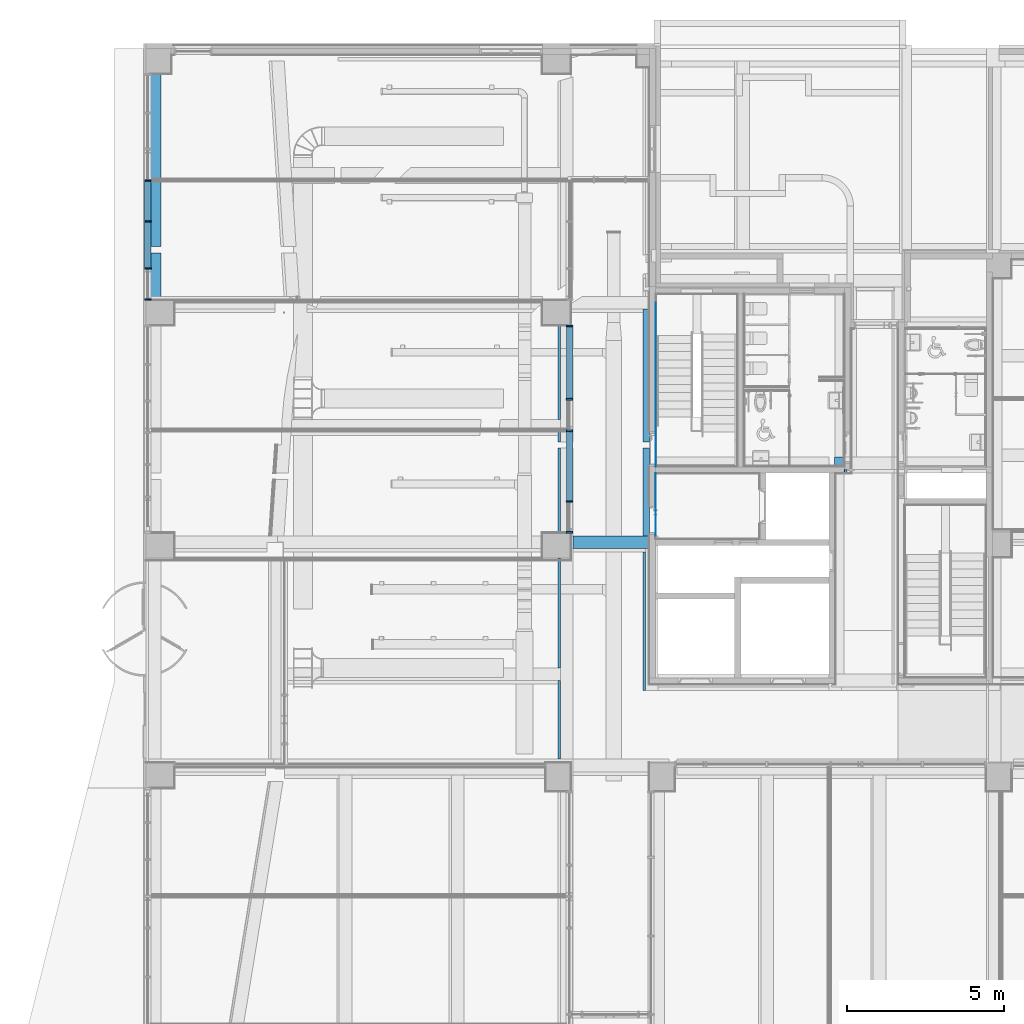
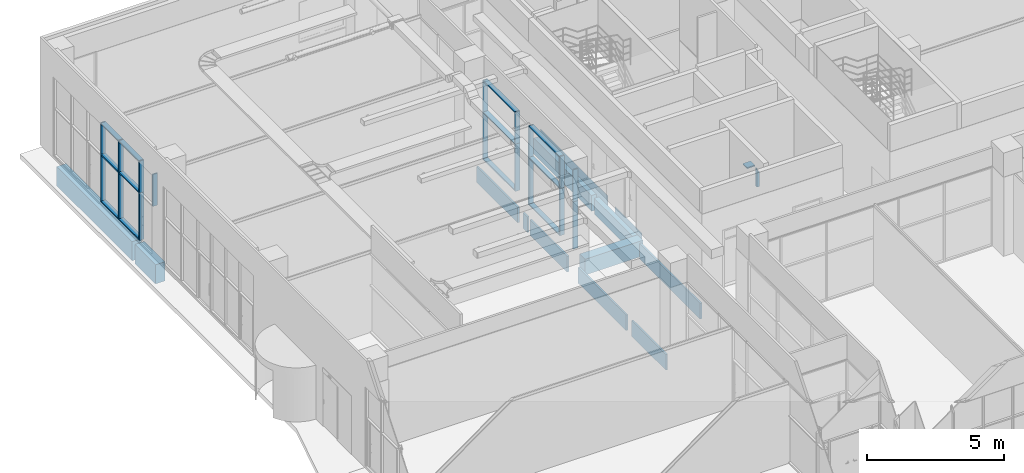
# One storey, part 9 of 100: 29 members, 8 beams, 2 elements without a shape of their own.
"""IFC2X3 building model written with IfcOpenShell, lengths in millimetres."""

from ifc_helpers import new_model, entity, si_unit, converted_unit, derived_unit, direction, frame, frame_2d, origin, origin_2d_with_axis, place, context, subcontext, project, spatial, polyline, rectangle, outline, extrude, source, transform, mapped, material, material_list, type_object, type_shapes, element, aggregate, save


model = new_model("IFC2X3")

# Units and contexts
model_context = context("Model", 3, precision=0.01, world=origin(), true_north=direction((6.123031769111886e-17, 1.0)))
body_context = subcontext(model_context, "Body", "Model", "MODEL_VIEW")
ifc_project = project(units=[si_unit("LENGTHUNIT", "METRE", prefix="MILLI"), si_unit("AREAUNIT", "SQUARE_METRE"), si_unit("VOLUMEUNIT", "CUBIC_METRE"), converted_unit("PLANEANGLEUNIT", "DEGREE", entity("IfcRatioMeasure", 0.017453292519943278), si_unit("PLANEANGLEUNIT", "RADIAN"), dimensions=[0, 0, 0, 0, 0, 0, 0]), si_unit("MASSUNIT", "GRAM", prefix="KILO"), derived_unit("MASSDENSITYUNIT", [(si_unit("MASSUNIT", "GRAM", prefix="KILO"), 1), (si_unit("LENGTHUNIT", "METRE"), -3)]), derived_unit("MOMENTOFINERTIAUNIT", [(si_unit("LENGTHUNIT", "METRE"), 4)]), si_unit("TIMEUNIT", "SECOND"), si_unit("FREQUENCYUNIT", "HERTZ"), si_unit("THERMODYNAMICTEMPERATUREUNIT", "DEGREE_CELSIUS"), derived_unit("THERMALTRANSMITTANCEUNIT", [(si_unit("MASSUNIT", "GRAM", prefix="KILO"), 1), (si_unit("THERMODYNAMICTEMPERATUREUNIT", "KELVIN"), -1), (si_unit("TIMEUNIT", "SECOND"), -3)]), derived_unit("VOLUMETRICFLOWRATEUNIT", [(si_unit("LENGTHUNIT", "METRE"), 3), (si_unit("TIMEUNIT", "SECOND"), -1)]), derived_unit("MASSFLOWRATEUNIT", [(si_unit("MASSUNIT", "GRAM", prefix="KILO"), 1), (si_unit("TIMEUNIT", "SECOND"), -1)]), derived_unit("ROTATIONALFREQUENCYUNIT", [(si_unit("TIMEUNIT", "SECOND"), -1)]), si_unit("ELECTRICCURRENTUNIT", "AMPERE"), si_unit("ELECTRICVOLTAGEUNIT", "VOLT"), si_unit("POWERUNIT", "WATT"), si_unit("FORCEUNIT", "NEWTON", prefix="KILO"), si_unit("ILLUMINANCEUNIT", "LUX"), si_unit("LUMINOUSFLUXUNIT", "LUMEN"), si_unit("LUMINOUSINTENSITYUNIT", "CANDELA"), derived_unit("USERDEFINED", [(si_unit("MASSUNIT", "GRAM", prefix="KILO"), -1), (si_unit("LENGTHUNIT", "METRE"), -2), (si_unit("TIMEUNIT", "SECOND"), 3), (si_unit("LUMINOUSFLUXUNIT", "LUMEN"), 1)]), derived_unit("SOUNDPOWERUNIT", [(si_unit("MASSUNIT", "GRAM", prefix="KILO"), 1), (si_unit("LENGTHUNIT", "METRE"), 2), (si_unit("TIMEUNIT", "SECOND"), -3)]), derived_unit("SOUNDPRESSUREUNIT", [(si_unit("MASSUNIT", "GRAM", prefix="KILO"), 1), (si_unit("LENGTHUNIT", "METRE"), -1), (si_unit("TIMEUNIT", "SECOND"), -2)]), derived_unit("LINEARVELOCITYUNIT", [(si_unit("LENGTHUNIT", "METRE"), 1), (si_unit("TIMEUNIT", "SECOND"), -1)]), si_unit("PRESSUREUNIT", "PASCAL"), derived_unit("USERDEFINED", [(si_unit("LENGTHUNIT", "METRE"), -2), (si_unit("MASSUNIT", "GRAM", prefix="KILO"), 1), (si_unit("TIMEUNIT", "SECOND"), -2)]), derived_unit("LINEARFORCEUNIT", [(si_unit("MASSUNIT", "GRAM", prefix="KILO"), 1), (si_unit("LENGTHUNIT", "METRE"), 1), (si_unit("TIMEUNIT", "SECOND"), -2), (si_unit("LENGTHUNIT", "METRE"), -1)]), derived_unit("PLANARFORCEUNIT", [(si_unit("MASSUNIT", "GRAM", prefix="KILO"), 1), (si_unit("LENGTHUNIT", "METRE"), 1), (si_unit("TIMEUNIT", "SECOND"), -2), (si_unit("LENGTHUNIT", "METRE"), -2)])], contexts=[model_context])

# Site, building, storey
site_placement = place(None, frame((-14167.972527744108, -657.2125860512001, 0.0)))
site = spatial("IfcSite", under=ifc_project, at=site_placement, Name="Default", CompositionType="ELEMENT")
building_placement = place(site_placement, origin())
building = spatial("IfcBuilding", under=site, at=building_placement, Name="Sample Building", CompositionType="ELEMENT")
storey_placement = place(building_placement, origin())
storey = spatial("IfcBuildingStorey", under=building, at=storey_placement, Name="지상 1층", CompositionType="ELEMENT", Elevation=0.0)

# Curtain wall, member
curtain_wall_type = type_object("IfcCurtainWallType", Name="커튼월:CW112-스테인리스 스틸 커튼월", PredefinedType="NOTDEFINED")
curtain_wall_1_placement = place(storey_placement, origin())
curtain_wall_1 = element("IfcCurtainWall", 1, at=curtain_wall_1_placement, inside=storey, type_object=curtain_wall_type, Name="커튼월:CW112-스테인리스 스틸 커튼월", ObjectType="커튼월:CW112-스테인리스 스틸 커튼월")
ifc_material_1 = material(Name="<Unnamed>")
member_type_1 = type_object("IfcMemberType", Name="직사각형 멀리언:CW200-직사각형 멀리언 50x200mm", PredefinedType="MULLION", material=ifc_material_1)
shared_shape_1 = source(origin(), body_context, "Body", "SweptSolid", [
    extrude(rectangle(XDim=200.0, YDim=50.0, at=origin_2d_with_axis()), frame((-25.0, 0.0, -1420.0), z_axis=(0.0, 0.0, 1.0), x_axis=(0.0, -1.0, 0.0)), (0.0, 0.0, 1.0), 1420.0000000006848),
])
type_shapes(member_type_1, [shared_shape_1])
member_1_placement = place(curtain_wall_1_placement, frame((27522.955141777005, 20357.212307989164, 3600.0), z_axis=(0.0, 0.0, 1.0), x_axis=(0.0, -1.0, 0.0)))
member_1 = element("IfcMember", 2, at=member_1_placement, type_object=member_type_1, material=ifc_material_1, Name="직사각형 멀리언:CW200-직사각형 멀리언 50x200mm", ObjectType="직사각형 멀리언:CW200-직사각형 멀리언 50x200mm", context=body_context, shape_type="MappedRepresentation", body=[
    mapped(shared_shape_1, transform((0.0, 0.0, 0.0), scale=1.0)),
])

# Curtain wall, members
curtain_wall_2_placement = place(storey_placement, origin())
curtain_wall_2 = element("IfcCurtainWall", 3, at=curtain_wall_2_placement, inside=storey, type_object=curtain_wall_type, Name="커튼월:CW112-스테인리스 스틸 커튼월", ObjectType="커튼월:CW112-스테인리스 스틸 커튼월")
member_type_2 = type_object("IfcMemberType", Name="직사각형 멀리언:CW200-직사각형 멀리언 50x200mm", PredefinedType="MULLION", material=ifc_material_1)
shared_shape_2 = source(origin(), body_context, "Body", "SweptSolid", [
    extrude(rectangle(XDim=200.0, YDim=50.0, at=origin_2d_with_axis()), frame((0.0, 0.0, -2100.0), z_axis=(0.0, 0.0, 1.0), x_axis=(0.0, -1.0, 0.0)), (0.0, 0.0, 1.0), 2100.0),
])
type_shapes(member_type_2, [shared_shape_2])
member_2_placement = place(curtain_wall_2_placement, frame((14130.455105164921, 31557.177748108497, 80.0), z_axis=(0.0, 0.0, -1.0), x_axis=(0.0, -1.0, 0.0)))
member_2 = element("IfcMember", 4, at=member_2_placement, type_object=member_type_2, material=ifc_material_1, Name="직사각형 멀리언:CW200-직사각형 멀리언 50x200mm", ObjectType="직사각형 멀리언:CW200-직사각형 멀리언 50x200mm", context=body_context, shape_type="MappedRepresentation", body=[
    mapped(shared_shape_2, transform((0.0, 0.0, 0.0), scale=1.0)),
])
member_3_placement = place(curtain_wall_2_placement, frame((14130.45510516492, 30257.177748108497, 80.0), z_axis=(0.0, 0.0, -1.0), x_axis=(0.0, -1.0, 0.0)))
member_3 = element("IfcMember", 5, at=member_3_placement, type_object=member_type_2, material=ifc_material_1, Name="직사각형 멀리언:CW200-직사각형 멀리언 50x200mm", ObjectType="직사각형 멀리언:CW200-직사각형 멀리언 50x200mm", context=body_context, shape_type="MappedRepresentation", body=[
    mapped(shared_shape_2, transform((0.0, 0.0, 0.0), scale=1.0)),
])
member_4_placement = place(curtain_wall_2_placement, frame((14130.455105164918, 28757.212586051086, 80.0), z_axis=(0.0, 0.0, -1.0), x_axis=(0.0, -1.0, 0.0)))
member_4 = element("IfcMember", 6, at=member_4_placement, type_object=member_type_2, material=ifc_material_1, Name="직사각형 멀리언:CW200-직사각형 멀리언 50x200mm", ObjectType="직사각형 멀리언:CW200-직사각형 멀리언 50x200mm", context=body_context, shape_type="MappedRepresentation", body=[
    mapped(shared_shape_2, transform((0.0, 0.0, 0.0), scale=1.0)),
])

# Member
member_5_placement = place(curtain_wall_1_placement, frame((27522.95514177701, 21357.212307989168, 80.0), z_axis=(0.0, 0.0, -1.0), x_axis=(0.0, 1.0, 0.0)))
member_5 = element("IfcMember", 7, at=member_5_placement, type_object=member_type_2, material=ifc_material_1, Name="직사각형 멀리언:CW200-직사각형 멀리언 50x200mm", ObjectType="직사각형 멀리언:CW200-직사각형 멀리언 50x200mm", context=body_context, shape_type="MappedRepresentation", body=[
    mapped(shared_shape_2, transform((0.0, 0.0, 0.0), scale=1.0)),
])

member_6_placement = place(curtain_wall_1_placement, frame((27522.955141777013, 23607.17762439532, 80.0), z_axis=(0.0, 0.0, -1.0), x_axis=(0.0, 1.0, 0.0)))
member_6 = element("IfcMember", 8, at=member_6_placement, type_object=member_type_2, material=ifc_material_1, Name="직사각형 멀리언:CW200-직사각형 멀리언 50x200mm", ObjectType="직사각형 멀리언:CW200-직사각형 멀리언 50x200mm", context=body_context, shape_type="MappedRepresentation", body=[
    mapped(shared_shape_2, transform((0.0, 0.0, 0.0), scale=1.0)),
])

member_7_placement = place(curtain_wall_1_placement, frame((27522.955141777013, 24607.17762439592, 80.0), z_axis=(0.0, 0.0, -1.0), x_axis=(0.0, 1.0, 0.0)))
member_7 = element("IfcMember", 9, at=member_7_placement, type_object=member_type_2, material=ifc_material_1, Name="직사각형 멀리언:CW200-직사각형 멀리언 50x200mm", ObjectType="직사각형 멀리언:CW200-직사각형 멀리언 50x200mm", context=body_context, shape_type="MappedRepresentation", body=[
    mapped(shared_shape_2, transform((0.0, 0.0, 0.0), scale=1.0)),
])

member_type_3 = type_object("IfcMemberType", Name="직사각형 멀리언:CW200-직사각형 멀리언 50x200mm", PredefinedType="MULLION", material=ifc_material_1)
shared_shape_3 = source(origin(), body_context, "Body", "SweptSolid", [
    extrude(rectangle(XDim=200.0, YDim=50.0, at=origin_2d_with_axis()), frame((-25.0, 0.0, -1250.0), z_axis=(0.0, 0.0, 1.0), x_axis=(0.0, -1.0, 0.0)), (0.0, 0.0, 1.0), 1249.999999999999),
])
type_shapes(member_type_3, [shared_shape_3])
member_8_placement = place(curtain_wall_2_placement, frame((14130.455105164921, 31532.177748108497, 80.0), z_axis=(0.0, 1.0, 0.0), x_axis=(0.0, 0.0, -1.0)))
member_8 = element("IfcMember", 10, at=member_8_placement, type_object=member_type_3, material=ifc_material_1, Name="직사각형 멀리언:CW200-직사각형 멀리언 50x200mm", ObjectType="직사각형 멀리언:CW200-직사각형 멀리언 50x200mm", context=body_context, shape_type="MappedRepresentation", body=[
    mapped(shared_shape_3, transform((0.0, 0.0, 0.0), scale=1.0)),
])

member_type_4 = type_object("IfcMemberType", Name="직사각형 멀리언:CW200-직사각형 멀리언 50x200mm", PredefinedType="MULLION", material=ifc_material_1)
shared_shape_4 = source(origin(), body_context, "Body", "SweptSolid", [
    extrude(rectangle(XDim=200.0, YDim=50.0, at=origin_2d_with_axis()), frame((-25.0, 0.0, -1420.0), z_axis=(0.0, 0.0, 1.0), x_axis=(0.0, -1.0, 0.0)), (0.0, 0.0, 1.0), 1420.0000000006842),
])
type_shapes(member_type_4, [shared_shape_4])
member_9_placement = place(curtain_wall_2_placement, frame((14130.455105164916, 27757.195169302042, 2180.0), z_axis=(0.0, 0.0, -1.0), x_axis=(0.0, -1.0, 0.0)))
member_9 = element("IfcMember", 11, at=member_9_placement, type_object=member_type_4, material=ifc_material_1, Name="직사각형 멀리언:CW200-직사각형 멀리언 50x200mm", ObjectType="직사각형 멀리언:CW200-직사각형 멀리언 50x200mm", context=body_context, shape_type="MappedRepresentation", body=[
    mapped(shared_shape_4, transform((0.0, 0.0, 0.0), scale=1.0)),
])

member_10_placement = place(curtain_wall_1_placement, frame((27522.955141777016, 26957.194891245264, 2180.0), z_axis=(0.0, 0.0, -1.0), x_axis=(0.0, 1.0, 0.0)))
member_10 = element("IfcMember", 12, at=member_10_placement, type_object=member_type_4, material=ifc_material_1, Name="직사각형 멀리언:CW200-직사각형 멀리언 50x200mm", ObjectType="직사각형 멀리언:CW200-직사각형 멀리언 50x200mm", context=body_context, shape_type="MappedRepresentation", body=[
    mapped(shared_shape_4, transform((0.0, 0.0, 0.0), scale=1.0)),
])

member_type_5 = type_object("IfcMemberType", Name="직사각형 멀리언:CW200-직사각형 멀리언 50x200mm", PredefinedType="MULLION", material=ifc_material_1)
shared_shape_5 = source(origin(), body_context, "Body", "SweptSolid", [
    extrude(rectangle(XDim=200.0, YDim=50.0, at=origin_2d_with_axis()), frame((0.0, 0.0, -1250.0), z_axis=(0.0, 0.0, 1.0), x_axis=(0.0, -1.0, 0.0)), (0.0, 0.0, 1.0), 1249.9999999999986),
])
type_shapes(member_type_5, [shared_shape_5])
member_11_placement = place(curtain_wall_2_placement, frame((14130.45510516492, 30282.177748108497, 2180.0), z_axis=(0.0, -1.0, 0.0), x_axis=(0.0, 0.0, 1.0)))
member_11 = element("IfcMember", 13, at=member_11_placement, type_object=member_type_5, material=ifc_material_1, Name="직사각형 멀리언:CW200-직사각형 멀리언 50x200mm", ObjectType="직사각형 멀리언:CW200-직사각형 멀리언 50x200mm", context=body_context, shape_type="MappedRepresentation", body=[
    mapped(shared_shape_5, transform((0.0, 0.0, 0.0), scale=1.0)),
])

member_type_6 = type_object("IfcMemberType", Name="직사각형 멀리언:CW200-직사각형 멀리언 50x200mm", PredefinedType="MULLION", material=ifc_material_1)
shared_shape_6 = source(origin(), body_context, "Body", "SweptSolid", [
    extrude(rectangle(XDim=200.0, YDim=50.0, at=origin_2d_with_axis()), frame((0.0, 0.0, -1420.0), z_axis=(0.0, 0.0, 1.0), x_axis=(0.0, -1.0, 0.0)), (0.0, 0.0, 1.0), 1420.0000000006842),
])
type_shapes(member_type_6, [shared_shape_6])
member_12_placement = place(curtain_wall_2_placement, frame((14130.455105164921, 31557.177748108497, 2180.0), z_axis=(0.0, 0.0, -1.0), x_axis=(0.0, -1.0, 0.0)))
member_12 = element("IfcMember", 14, at=member_12_placement, type_object=member_type_6, material=ifc_material_1, Name="직사각형 멀리언:CW200-직사각형 멀리언 50x200mm", ObjectType="직사각형 멀리언:CW200-직사각형 멀리언 50x200mm", context=body_context, shape_type="MappedRepresentation", body=[
    mapped(shared_shape_6, transform((0.0, 0.0, 0.0), scale=1.0)),
])

member_13_placement = place(curtain_wall_2_placement, frame((14130.45510516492, 30257.177748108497, 2180.0), z_axis=(0.0, 0.0, -1.0), x_axis=(0.0, -1.0, 0.0)))
member_13 = element("IfcMember", 15, at=member_13_placement, type_object=member_type_6, material=ifc_material_1, Name="직사각형 멀리언:CW200-직사각형 멀리언 50x200mm", ObjectType="직사각형 멀리언:CW200-직사각형 멀리언 50x200mm", context=body_context, shape_type="MappedRepresentation", body=[
    mapped(shared_shape_6, transform((0.0, 0.0, 0.0), scale=1.0)),
])

member_14_placement = place(curtain_wall_2_placement, frame((14130.455105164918, 28757.212586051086, 2180.0), z_axis=(0.0, 0.0, -1.0), x_axis=(0.0, -1.0, 0.0)))
member_14 = element("IfcMember", 16, at=member_14_placement, type_object=member_type_6, material=ifc_material_1, Name="직사각형 멀리언:CW200-직사각형 멀리언 50x200mm", ObjectType="직사각형 멀리언:CW200-직사각형 멀리언 50x200mm", context=body_context, shape_type="MappedRepresentation", body=[
    mapped(shared_shape_6, transform((0.0, 0.0, 0.0), scale=1.0)),
])

member_15_placement = place(curtain_wall_1_placement, frame((27522.95514177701, 21357.212307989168, 2180.0), z_axis=(0.0, 0.0, -1.0), x_axis=(0.0, 1.0, 0.0)))
member_15 = element("IfcMember", 17, at=member_15_placement, type_object=member_type_6, material=ifc_material_1, Name="직사각형 멀리언:CW200-직사각형 멀리언 50x200mm", ObjectType="직사각형 멀리언:CW200-직사각형 멀리언 50x200mm", context=body_context, shape_type="MappedRepresentation", body=[
    mapped(shared_shape_6, transform((0.0, 0.0, 0.0), scale=1.0)),
])

member_16_placement = place(curtain_wall_1_placement, frame((27522.955141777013, 23607.17762439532, 2180.0), z_axis=(0.0, 0.0, -1.0), x_axis=(0.0, 1.0, 0.0)))
member_16 = element("IfcMember", 18, at=member_16_placement, type_object=member_type_6, material=ifc_material_1, Name="직사각형 멀리언:CW200-직사각형 멀리언 50x200mm", ObjectType="직사각형 멀리언:CW200-직사각형 멀리언 50x200mm", context=body_context, shape_type="MappedRepresentation", body=[
    mapped(shared_shape_6, transform((0.0, 0.0, 0.0), scale=1.0)),
])

member_17_placement = place(curtain_wall_1_placement, frame((27522.955141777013, 24607.17762439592, 2180.0), z_axis=(0.0, 0.0, -1.0), x_axis=(0.0, 1.0, 0.0)))
member_17 = element("IfcMember", 19, at=member_17_placement, type_object=member_type_6, material=ifc_material_1, Name="직사각형 멀리언:CW200-직사각형 멀리언 50x200mm", ObjectType="직사각형 멀리언:CW200-직사각형 멀리언 50x200mm", context=body_context, shape_type="MappedRepresentation", body=[
    mapped(shared_shape_6, transform((0.0, 0.0, 0.0), scale=1.0)),
])

member_type_7 = type_object("IfcMemberType", Name="직사각형 멀리언:CW200-직사각형 멀리언 50x200mm", PredefinedType="MULLION", material=ifc_material_1)
shared_shape_7 = source(origin(), body_context, "Body", "SweptSolid", [
    extrude(rectangle(XDim=200.0, YDim=50.0, at=origin_2d_with_axis()), frame((-25.0, 0.0, -1250.0), z_axis=(0.0, 0.0, 1.0), x_axis=(0.0, -1.0, 0.0)), (0.0, 0.0, 1.0), 1249.9999999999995),
])
type_shapes(member_type_7, [shared_shape_7])
member_18_placement = place(curtain_wall_2_placement, frame((14130.45510516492, 30282.177748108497, 3600.0), z_axis=(0.0, -1.0, 0.0), x_axis=(0.0, 0.0, 1.0)))
member_18 = element("IfcMember", 20, at=member_18_placement, type_object=member_type_7, material=ifc_material_1, Name="직사각형 멀리언:CW200-직사각형 멀리언 50x200mm", ObjectType="직사각형 멀리언:CW200-직사각형 멀리언 50x200mm", context=body_context, shape_type="MappedRepresentation", body=[
    mapped(shared_shape_7, transform((0.0, 0.0, 0.0), scale=1.0)),
])

member_type_8 = type_object("IfcMemberType", Name="직사각형 멀리언:CW200-직사각형 멀리언 50x200mm", PredefinedType="MULLION", material=ifc_material_1)
shared_shape_8 = source(origin(), body_context, "Body", "SweptSolid", [
    extrude(rectangle(XDim=200.0, YDim=50.0, at=origin_2d_with_axis()), frame((-25.0, 0.0, -1450.0), z_axis=(0.0, 0.0, 1.0), x_axis=(0.0, -1.0, 0.0)), (0.0, 0.0, 1.0), 1450.0000000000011),
])
type_shapes(member_type_8, [shared_shape_8])
member_19_placement = place(curtain_wall_2_placement, frame((14130.45510516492, 30232.177748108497, 80.0), z_axis=(0.0, 1.0, 0.0), x_axis=(0.0, 0.0, -1.0)))
member_19 = element("IfcMember", 21, at=member_19_placement, type_object=member_type_8, material=ifc_material_1, Name="직사각형 멀리언:CW200-직사각형 멀리언 50x200mm", ObjectType="직사각형 멀리언:CW200-직사각형 멀리언 50x200mm", context=body_context, shape_type="MappedRepresentation", body=[
    mapped(shared_shape_8, transform((0.0, 0.0, 0.0), scale=1.0)),
])

member_type_9 = type_object("IfcMemberType", Name="직사각형 멀리언:CW200-직사각형 멀리언 50x200mm", PredefinedType="MULLION", material=ifc_material_1)
shared_shape_9 = source(origin(), body_context, "Body", "SweptSolid", [
    extrude(rectangle(XDim=200.0, YDim=50.0, at=origin_2d_with_axis()), frame((0.0, 0.0, -1450.0), z_axis=(0.0, 0.0, 1.0), x_axis=(0.0, -1.0, 0.0)), (0.0, 0.0, 1.0), 1450.000000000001),
])
type_shapes(member_type_9, [shared_shape_9])
member_20_placement = place(curtain_wall_2_placement, frame((14130.455105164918, 28782.212586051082, 2180.0), z_axis=(0.0, -1.0, 0.0), x_axis=(0.0, 0.0, 1.0)))
member_20 = element("IfcMember", 22, at=member_20_placement, type_object=member_type_9, material=ifc_material_1, Name="직사각형 멀리언:CW200-직사각형 멀리언 50x200mm", ObjectType="직사각형 멀리언:CW200-직사각형 멀리언 50x200mm", context=body_context, shape_type="MappedRepresentation", body=[
    mapped(shared_shape_9, transform((0.0, 0.0, 0.0), scale=1.0)),
])

member_type_10 = type_object("IfcMemberType", Name="직사각형 멀리언:CW200-직사각형 멀리언 50x200mm", PredefinedType="MULLION", material=ifc_material_1)
shared_shape_10 = source(origin(), body_context, "Body", "SweptSolid", [
    extrude(rectangle(XDim=200.0, YDim=50.0, at=origin_2d_with_axis()), frame((-25.0, 0.0, -1450.0), z_axis=(0.0, 0.0, 1.0), x_axis=(0.0, -1.0, 0.0)), (0.0, 0.0, 1.0), 1450.0000000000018),
])
type_shapes(member_type_10, [shared_shape_10])
member_21_placement = place(curtain_wall_2_placement, frame((14130.455105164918, 28782.212586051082, 3600.0), z_axis=(0.0, -1.0, 0.0), x_axis=(0.0, 0.0, 1.0)))
member_21 = element("IfcMember", 23, at=member_21_placement, type_object=member_type_10, material=ifc_material_1, Name="직사각형 멀리언:CW200-직사각형 멀리언 50x200mm", ObjectType="직사각형 멀리언:CW200-직사각형 멀리언 50x200mm", context=body_context, shape_type="MappedRepresentation", body=[
    mapped(shared_shape_10, transform((0.0, 0.0, 0.0), scale=1.0)),
])

aggregate(curtain_wall_2, [member_8, member_2, member_9, member_11, member_12, member_18, member_19, member_20, member_3, member_13, member_21, member_4, member_14])

member_type_11 = type_object("IfcMemberType", Name="직사각형 멀리언:CW200-직사각형 멀리언 50x200mm", PredefinedType="MULLION", material=ifc_material_1)
shared_shape_11 = source(origin(), body_context, "Body", "SweptSolid", [
    extrude(rectangle(XDim=200.0, YDim=50.0, at=origin_2d_with_axis()), frame((-25.0, 0.0, -2274.9999772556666), z_axis=(0.0, 0.0, 1.0), x_axis=(0.0, -1.0, 0.0)), (0.0, 0.0, 1.0), 2274.999977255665),
])
type_shapes(member_type_11, [shared_shape_11])
member_22_placement = place(curtain_wall_1_placement, frame((27522.955141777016, 26907.194891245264, 3600.0), z_axis=(0.0, 1.0, 0.0), x_axis=(0.0, 0.0, 1.0)))
member_22 = element("IfcMember", 24, at=member_22_placement, type_object=member_type_11, material=ifc_material_1, Name="직사각형 멀리언:CW200-직사각형 멀리언 50x200mm", ObjectType="직사각형 멀리언:CW200-직사각형 멀리언 50x200mm", context=body_context, shape_type="MappedRepresentation", body=[
    mapped(shared_shape_11, transform((0.0, 0.0, 0.0), scale=1.0)),
])

member_type_12 = type_object("IfcMemberType", Name="직사각형 멀리언:CW200-직사각형 멀리언 50x200mm", PredefinedType="MULLION", material=ifc_material_1)
shared_shape_12 = source(origin(), body_context, "Body", "SweptSolid", [
    extrude(rectangle(XDim=200.0, YDim=50.0, at=origin_2d_with_axis()), frame((-25.0, 0.0, -2100.0), z_axis=(0.0, 0.0, 1.0), x_axis=(0.0, -1.0, 0.0)), (0.0, 0.0, 1.0), 2100.0),
])
type_shapes(member_type_12, [shared_shape_12])
member_23_placement = place(curtain_wall_1_placement, frame((27522.955141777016, 26957.194891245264, 80.0), z_axis=(0.0, 0.0, -1.0), x_axis=(0.0, 1.0, 0.0)))
member_23 = element("IfcMember", 25, at=member_23_placement, type_object=member_type_12, material=ifc_material_1, Name="직사각형 멀리언:CW200-직사각형 멀리언 50x200mm", ObjectType="직사각형 멀리언:CW200-직사각형 멀리언 50x200mm", context=body_context, shape_type="MappedRepresentation", body=[
    mapped(shared_shape_12, transform((0.0, 0.0, 0.0), scale=1.0)),
])

member_type_13 = type_object("IfcMemberType", Name="직사각형 멀리언:CW200-직사각형 멀리언 50x200mm", PredefinedType="MULLION", material=ifc_material_1)
shared_shape_13 = source(origin(), body_context, "Body", "SweptSolid", [
    extrude(rectangle(XDim=200.0, YDim=50.0, at=origin_2d_with_axis()), frame((-25.0, 0.0, -2100.0), z_axis=(0.0, 0.0, 1.0), x_axis=(0.0, -1.0, 0.0)), (0.0, 0.0, 1.0), 2099.9999999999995),
])
type_shapes(member_type_13, [shared_shape_13])
member_24_placement = place(curtain_wall_1_placement, frame((27522.955141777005, 20357.212307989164, 2180.0), z_axis=(0.0, 0.0, 1.0), x_axis=(0.0, -1.0, 0.0)))
member_24 = element("IfcMember", 26, at=member_24_placement, type_object=member_type_13, material=ifc_material_1, Name="직사각형 멀리언:CW200-직사각형 멀리언 50x200mm", ObjectType="직사각형 멀리언:CW200-직사각형 멀리언 50x200mm", context=body_context, shape_type="MappedRepresentation", body=[
    mapped(shared_shape_13, transform((0.0, 0.0, 0.0), scale=1.0)),
])

member_type_14 = type_object("IfcMemberType", Name="직사각형 멀리언:CW200-직사각형 멀리언 50x200mm", PredefinedType="MULLION", material=ifc_material_1)
shared_shape_14 = source(origin(), body_context, "Body", "SweptSolid", [
    extrude(rectangle(XDim=200.0, YDim=50.0, at=origin_2d_with_axis()), frame((-25.0, 0.0, -2274.9999772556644), z_axis=(0.0, 0.0, 1.0), x_axis=(0.0, -1.0, 0.0)), (0.0, 0.0, 1.0), 2274.9999772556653),
])
type_shapes(member_type_14, [shared_shape_14])
member_25_placement = place(curtain_wall_1_placement, frame((27522.955141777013, 24632.177624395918, 80.0), z_axis=(0.0, -1.0, 0.0), x_axis=(0.0, 0.0, -1.0)))
member_25 = element("IfcMember", 27, at=member_25_placement, type_object=member_type_14, material=ifc_material_1, Name="직사각형 멀리언:CW200-직사각형 멀리언 50x200mm", ObjectType="직사각형 멀리언:CW200-직사각형 멀리언 50x200mm", context=body_context, shape_type="MappedRepresentation", body=[
    mapped(shared_shape_14, transform((0.0, 0.0, 0.0), scale=1.0)),
])

member_type_15 = type_object("IfcMemberType", Name="직사각형 멀리언:CW200-직사각형 멀리언 50x200mm", PredefinedType="MULLION", material=ifc_material_1)
shared_shape_15 = source(origin(), body_context, "Body", "SweptSolid", [
    extrude(rectangle(XDim=200.0, YDim=50.0, at=origin_2d_with_axis()), frame((0.0, 0.0, -2274.999977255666), z_axis=(0.0, 0.0, 1.0), x_axis=(0.0, -1.0, 0.0)), (0.0, 0.0, 1.0), 2274.9999772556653),
])
type_shapes(member_type_15, [shared_shape_15])
member_26_placement = place(curtain_wall_1_placement, frame((27522.955141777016, 26907.194891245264, 2180.0), z_axis=(0.0, 1.0, 0.0), x_axis=(0.0, 0.0, 1.0)))
member_26 = element("IfcMember", 28, at=member_26_placement, type_object=member_type_15, material=ifc_material_1, Name="직사각형 멀리언:CW200-직사각형 멀리언 50x200mm", ObjectType="직사각형 멀리언:CW200-직사각형 멀리언 50x200mm", context=body_context, shape_type="MappedRepresentation", body=[
    mapped(shared_shape_15, transform((0.0, 0.0, 0.0), scale=1.0)),
])

member_type_16 = type_object("IfcMemberType", Name="직사각형 멀리언:CW200-직사각형 멀리언 50x200mm", PredefinedType="MULLION", material=ifc_material_1)
shared_shape_16 = source(origin(), body_context, "Body", "SweptSolid", [
    extrude(rectangle(XDim=200.0, YDim=50.0, at=origin_2d_with_axis()), frame((-25.0, 0.0, -2199.9653164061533), z_axis=(0.0, 0.0, 1.0), x_axis=(0.0, -1.0, 0.0)), (0.0, 0.0, 1.0), 2199.965316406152),
])
type_shapes(member_type_16, [shared_shape_16])
member_27_placement = place(curtain_wall_1_placement, frame((27522.95514177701, 21382.212307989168, 80.0), z_axis=(0.0, -1.0, 0.0), x_axis=(0.0, 0.0, -1.0)))
member_27 = element("IfcMember", 29, at=member_27_placement, type_object=member_type_16, material=ifc_material_1, Name="직사각형 멀리언:CW200-직사각형 멀리언 50x200mm", ObjectType="직사각형 멀리언:CW200-직사각형 멀리언 50x200mm", context=body_context, shape_type="MappedRepresentation", body=[
    mapped(shared_shape_16, transform((0.0, 0.0, 0.0), scale=1.0)),
])

member_type_17 = type_object("IfcMemberType", Name="직사각형 멀리언:CW200-직사각형 멀리언 50x200mm", PredefinedType="MULLION", material=ifc_material_1)
shared_shape_17 = source(origin(), body_context, "Body", "SweptSolid", [
    extrude(rectangle(XDim=200.0, YDim=50.0, at=origin_2d_with_axis()), frame((-25.0, 0.0, -2199.9653164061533), z_axis=(0.0, 0.0, 1.0), x_axis=(0.0, -1.0, 0.0)), (0.0, 0.0, 1.0), 2199.9653164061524),
])
type_shapes(member_type_17, [shared_shape_17])
member_28_placement = place(curtain_wall_1_placement, frame((27522.955141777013, 23582.17762439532, 3600.0), z_axis=(0.0, 1.0, 0.0), x_axis=(0.0, 0.0, 1.0)))
member_28 = element("IfcMember", 30, at=member_28_placement, type_object=member_type_17, material=ifc_material_1, Name="직사각형 멀리언:CW200-직사각형 멀리언 50x200mm", ObjectType="직사각형 멀리언:CW200-직사각형 멀리언 50x200mm", context=body_context, shape_type="MappedRepresentation", body=[
    mapped(shared_shape_17, transform((0.0, 0.0, 0.0), scale=1.0)),
])

member_type_18 = type_object("IfcMemberType", Name="직사각형 멀리언:CW200-직사각형 멀리언 50x200mm", PredefinedType="MULLION", material=ifc_material_1)
shared_shape_18 = source(origin(), body_context, "Body", "SweptSolid", [
    extrude(rectangle(XDim=200.0, YDim=50.0, at=origin_2d_with_axis()), frame((0.0, 0.0, -2199.965316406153), z_axis=(0.0, 0.0, 1.0), x_axis=(0.0, -1.0, 0.0)), (0.0, 0.0, 1.0), 2199.9653164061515),
])
type_shapes(member_type_18, [shared_shape_18])
member_29_placement = place(curtain_wall_1_placement, frame((27522.955141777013, 23582.17762439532, 2180.0), z_axis=(0.0, 1.0, 0.0), x_axis=(0.0, 0.0, 1.0)))
member_29 = element("IfcMember", 31, at=member_29_placement, type_object=member_type_18, material=ifc_material_1, Name="직사각형 멀리언:CW200-직사각형 멀리언 50x200mm", ObjectType="직사각형 멀리언:CW200-직사각형 멀리언 50x200mm", context=body_context, shape_type="MappedRepresentation", body=[
    mapped(shared_shape_18, transform((0.0, 0.0, 0.0), scale=1.0)),
])

aggregate(curtain_wall_1, [member_22, member_23, member_1, member_27, member_5, member_28, member_6, member_25, member_7, member_10, member_24, member_29, member_26, member_15, member_16, member_17])

# Beams
ifc_material_2 = material(Name="KBIMS-콘크리트")
beam_type_1 = type_object("IfcBeamType", Name="BM111-철근콘크리트구조 보:BM110-철근 콘크리트구조 보_400 x 850_B1-1G3", PredefinedType="NOTDEFINED")
beam_1_placement = place(storey_placement, frame((27442.87470536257, 20071.077115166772, 0.0)))
element("IfcBeam", 32, at=beam_1_placement, inside=storey, type_object=beam_type_1, material=ifc_material_2, Name="BM111-철근콘크리트구조 보:BM110-철근 콘크리트구조 보_400 x 850_B1-1G3", ObjectType="BM111-철근콘크리트구조 보:BM110-철근 콘크리트구조 보_400 x 850_B1-1G3", context=body_context, shape_type="SweptSolid", body=[
    extrude(rectangle(XDim=700.0000000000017, YDim=400.0000000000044, at=origin_2d_with_axis()), frame((200.0, 0.0, -500.0), z_axis=(1.0, 0.0, 0.0), x_axis=(0.0, 0.0, -1.0)), (0.0, 0.0, 1.0), 2423.2511090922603),
])
beam_type_2 = type_object("IfcBeamType", Name="BM111-철근콘크리트구조 보:BM110-철근 콘크리트구조 보_400 x 850_B1-1G2", PredefinedType="BEAM", material=ifc_material_2)
shared_shape_19 = source(origin(), body_context, "Body", "SweptSolid", [
    extrude(rectangle(XDim=849.9999999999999, YDim=400.0000000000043, at=frame_2d((1.0942358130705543e-12, -5.684341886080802e-14), x_axis=(0.0, 1.0))), frame((14343.280586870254, 27758.077101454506, -875.0), z_axis=(0.0, 1.0, 0.0), x_axis=(-1.0, 0.0, 0.0)), (0.0, 0.0, 1.0), 1499.1352065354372),
    extrude(rectangle(XDim=849.9999999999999, YDim=400.0000000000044, at=frame_2d((-1.0942358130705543e-12, -5.684341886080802e-14), x_axis=(0.0, 1.0))), frame((14343.280586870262, 29457.21230798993, -875.0), z_axis=(0.0, 1.0, 0.0), x_axis=(-1.0, 0.0, 0.0)), (0.0, 0.0, 1.0), 5500.000281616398),
])
type_shapes(beam_type_2, [shared_shape_19])
beam_2_placement = place(storey_placement, origin())
element("IfcBeam", 33, at=beam_2_placement, inside=storey, type_object=beam_type_2, material=ifc_material_2, Name="BM111-철근콘크리트구조 보:BM110-철근 콘크리트구조 보_400 x 850_B1-1G2", ObjectType="BM111-철근콘크리트구조 보:BM110-철근 콘크리트구조 보_400 x 850_B1-1G2", context=body_context, shape_type="MappedRepresentation", body=[
    mapped(shared_shape_19, transform((0.0, 0.0, 0.0), scale=1.0)),
])
beam_type_3 = type_object("IfcBeamType", Name="BM111-철근콘크리트구조 보:BM110-철근 콘크리트구조 보_400 x 850_B1-1WG1", PredefinedType="BEAM", material=ifc_material_2)
beam_3_placement = place(storey_placement, frame((30067.94644879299, 15557.212604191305, 0.0), z_axis=(0.0, 0.0, 1.0), x_axis=(0.0, 1.0, 0.0)))
element("IfcBeam", 34, at=beam_3_placement, inside=storey, type_object=beam_type_3, material=ifc_material_2, Name="BM111-철근콘크리트구조 보:BM110-철근 콘크리트구조 보_400 x 850_B1-1WG1", ObjectType="BM111-철근콘크리트구조 보:BM110-철근 콘크리트구조 보_400 x 850_B1-1WG1", context=body_context, shape_type="SweptSolid", body=[
    extrude(rectangle(XDim=700.0000000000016, YDim=75.29945030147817, at=origin_2d_with_axis()), frame((-200.0, 162.3502748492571, -500.0), z_axis=(1.0, 0.0, 0.0), x_axis=(0.0, 0.0, -1.0)), (0.0, 0.0, 1.0), 4400.000012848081),
])
beam_type_4 = type_object("IfcBeamType", Name="BM111-철근콘크리트구조 보:BM110-철근 콘크리트구조 보_400 x 850_B1-1WG1", PredefinedType="BEAM", material=ifc_material_2)
shared_shape_20 = source(origin(), body_context, "Body", "SweptSolid", [
    extrude(rectangle(XDim=700.0000000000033, YDim=200.00000000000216, at=frame_2d((-4.334310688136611e-12, -7.958078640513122e-13), x_axis=(0.0, 1.0))), frame((29966.125814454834, 23057.212307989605, -500.0), z_axis=(0.0, -1.0, 0.0), x_axis=(-1.0, 0.0, 0.0)), (0.0, 0.0, 1.0), 2786.1351928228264),
    extrude(rectangle(XDim=700.0000000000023, YDim=200.00000000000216, at=frame_2d((4.548184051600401e-11, -5.400124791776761e-13), x_axis=(0.0, 1.0))), frame((29966.125814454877, 27471.07711517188, -500.0), z_axis=(0.0, -1.0, 0.0), x_axis=(-1.0, 0.0, 0.0)), (0.0, 0.0, 1.0), 4213.864807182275),
])
type_shapes(beam_type_4, [shared_shape_20])
beam_4_placement = place(storey_placement, origin())
element("IfcBeam", 35, at=beam_4_placement, inside=storey, type_object=beam_type_4, material=ifc_material_2, Name="BM111-철근콘크리트구조 보:BM110-철근 콘크리트구조 보_400 x 850_B1-1WG1", ObjectType="BM111-철근콘크리트구조 보:BM110-철근 콘크리트구조 보_400 x 850_B1-1WG1", context=body_context, shape_type="MappedRepresentation", body=[
    mapped(shared_shape_20, transform((0.0, 0.0, 0.0), scale=1.0)),
])
beam_type_5 = type_object("IfcBeamType", Name="BM111-철근콘크리트구조 보:BM110-철근 콘크리트구조 보_400 x 850_B1-1WG1", PredefinedType="BEAM", material=ifc_material_2)
shared_shape_21 = source(origin(), body_context, "Body", "SweptSolid", [
    extrude(rectangle(XDim=50.000000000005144, YDim=324.7092060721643, at=frame_2d((-2.1600499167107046e-12, -2.7000623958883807e-13), x_axis=(0.0, 1.0))), frame((36105.60919511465, 22457.21231133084, -575.0), z_axis=(0.0, 1.0, 0.0), x_axis=(-1.0, 0.0, 0.0)), (0.0, 0.0, 1.0), 313.86480717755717),
    extrude(outline(polyline([(-58.433162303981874, -483.33333333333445), (41.57553068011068, -483.33333333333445), (41.57553068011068, 316.66666666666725), (16.857631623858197, 316.66666666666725), (16.857631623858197, 166.66666666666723), (-58.433162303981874, 166.66666666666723), (-58.433162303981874, -483.33333333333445)])), frame((36284.821429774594, 22257.212311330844, -916.6666666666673), z_axis=(0.0, 1.0, 0.0), x_axis=(-1.0, 0.0, 0.0)), (0.0, 0.0, 1.0), 113.86480717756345),
])
type_shapes(beam_type_5, [shared_shape_21])
beam_5_placement = place(storey_placement, origin())
element("IfcBeam", 36, at=beam_5_placement, inside=storey, type_object=beam_type_5, material=ifc_material_2, Name="BM111-철근콘크리트구조 보:BM110-철근 콘크리트구조 보_400 x 850_B1-1WG1", ObjectType="BM111-철근콘크리트구조 보:BM110-철근 콘크리트구조 보_400 x 850_B1-1WG1", context=body_context, shape_type="MappedRepresentation", body=[
    mapped(shared_shape_21, transform((0.0, 0.0, 0.0), scale=1.0)),
])
beam_type_6 = type_object("IfcBeamType", Name="BM111-철근콘크리트구조 보:BM110-철근 콘크리트구조 보_400 x 850_B1-1G4", PredefinedType="BEAM", material=ifc_material_2)
shared_shape_22 = source(origin(), body_context, "Body", "SweptSolid", [
    extrude(rectangle(XDim=700.0000000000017, YDim=75.29945030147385, at=frame_2d((-4.330757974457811e-12, 0.0), x_axis=(0.0, 1.0))), frame((27205.22498021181, 16071.077060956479, -500.0), z_axis=(0.0, 1.0, 0.0), x_axis=(-1.0, 0.0, 0.0)), (0.0, 0.0, 1.0), 3486.1355560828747),
    extrude(rectangle(XDim=700.0000000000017, YDim=75.29945030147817, at=frame_2d((-2.163602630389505e-12, 0.0), x_axis=(0.0, 1.0))), frame((27205.224980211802, 13171.077049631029, -500.0), z_axis=(0.0, 1.0, 0.0), x_axis=(-1.0, 0.0, 0.0)), (0.0, 0.0, 1.0), 2500.0000113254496),
])
type_shapes(beam_type_6, [shared_shape_22])
beam_6_placement = place(storey_placement, origin())
element("IfcBeam", 37, at=beam_6_placement, inside=storey, type_object=beam_type_6, material=ifc_material_2, Name="BM111-철근콘크리트구조 보:BM110-철근 콘크리트구조 보_400 x 850_B1-1G4", ObjectType="BM111-철근콘크리트구조 보:BM110-철근 콘크리트구조 보_400 x 850_B1-1G4", context=body_context, shape_type="MappedRepresentation", body=[
    mapped(shared_shape_22, transform((0.0, 0.0, 0.0), scale=1.0)),
])
beam_type_7 = type_object("IfcBeamType", Name="BM111-철근콘크리트구조 보:BM110-철근 콘크리트구조 보_400 x 850_B1-1G4", PredefinedType="BEAM", material=ifc_material_2)
shared_shape_23 = source(origin(), body_context, "Body", "SweptSolid", [
    extrude(rectangle(XDim=700.0000000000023, YDim=75.29945030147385, at=frame_2d((-2.163602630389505e-12, -1.4210854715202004e-13), x_axis=(0.0, 1.0))), frame((27205.596173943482, 23057.212307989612, -500.0), z_axis=(0.0, -1.0, 0.0), x_axis=(-1.0, 0.0, 0.0)), (0.0, 0.0, 1.0), 2699.999690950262),
    extrude(rectangle(XDim=700.0000000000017, YDim=75.29945030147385, at=frame_2d((0.0, 0.0), x_axis=(0.0, 1.0))), frame((27205.596173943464, 26957.2126170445, -500.0), z_axis=(0.0, -1.0, 0.0), x_axis=(-1.0, 0.0, 0.0)), (0.0, 0.0, 1.0), 2986.1355147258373),
    extrude(rectangle(XDim=700.0000000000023, YDim=75.29945030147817, at=frame_2d((0.0, -1.4210854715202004e-13), x_axis=(0.0, 1.0))), frame((27205.596173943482, 23571.077102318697, -500.0), z_axis=(0.0, -1.0, 0.0), x_axis=(-1.0, 0.0, 0.0)), (0.0, 0.0, 1.0), 313.86479432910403),
])
type_shapes(beam_type_7, [shared_shape_23])
beam_7_placement = place(storey_placement, origin())
element("IfcBeam", 38, at=beam_7_placement, inside=storey, type_object=beam_type_7, material=ifc_material_2, Name="BM111-철근콘크리트구조 보:BM110-철근 콘크리트구조 보_400 x 850_B1-1G4", ObjectType="BM111-철근콘크리트구조 보:BM110-철근 콘크리트구조 보_400 x 850_B1-1G4", context=body_context, shape_type="MappedRepresentation", body=[
    mapped(shared_shape_23, transform((0.0, 0.0, 0.0), scale=1.0)),
])
ifc_material_list_1 = material_list([ifc_material_2, ifc_material_2])
ifc_material_list_2 = material_list([ifc_material_2, ifc_material_2])
beam_type_8 = type_object("IfcBeamType", Name="BM111-철근콘크리트구조 보:BM110-철근 콘크리트구조 보_400 x 850_B1-1WG1", PredefinedType="BEAM", material=ifc_material_list_2)
shared_shape_24 = source(origin(), body_context, "Body", "SweptSolid", [
    extrude(outline(polyline([(1528.7117298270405, 116.66666666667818), (1842.5765370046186, 116.66666666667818), (1842.5765370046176, 366.6666666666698), (-3371.2882668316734, 366.66666666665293), (-3371.2882668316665, -483.33333333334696), (1528.711729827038, -483.33333333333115), (1528.7117298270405, 116.66666666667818)])), frame((30266.125814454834, 24299.788848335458, -483.3333333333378), z_axis=(1.0, 0.0, 0.0), x_axis=(0.0, -1.0, 0.0)), (0.0, 0.0, 1.0), 1.8206343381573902),
    extrude(rectangle(XDim=700.0000000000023, YDim=1986.1351961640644, at=frame_2d((19.999999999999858, 198.61351961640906), x_axis=(1.0, 0.0))), frame((30266.125814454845, 21462.75823286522, -520.0), z_axis=(1.0, 0.0, 0.0), x_axis=(0.0, 0.0, 1.0)), (0.0, 0.0, 1.0), 1.8206343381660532),
])
type_shapes(beam_type_8, [shared_shape_24])
beam_8_placement = place(storey_placement, origin())
element("IfcBeam", 39, at=beam_8_placement, inside=storey, type_object=beam_type_8, material=ifc_material_list_1, Name="BM111-철근콘크리트구조 보:BM110-철근 콘크리트구조 보_400 x 850_B1-1WG1", ObjectType="BM111-철근콘크리트구조 보:BM110-철근 콘크리트구조 보_400 x 850_B1-1WG1", context=body_context, shape_type="MappedRepresentation", body=[
    mapped(shared_shape_24, transform((0.0, 0.0, 0.0), scale=1.0)),
])

save(model, "model.ifc")
